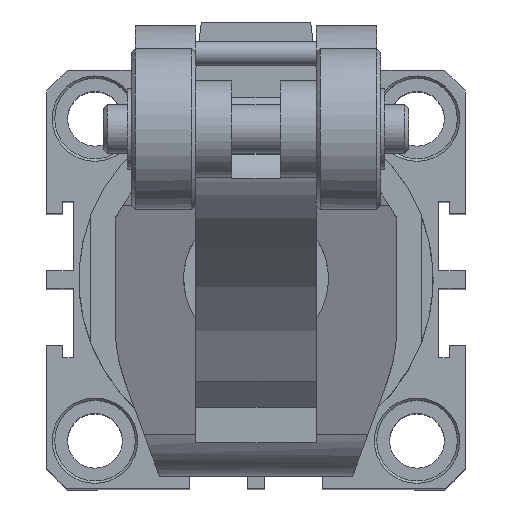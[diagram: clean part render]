
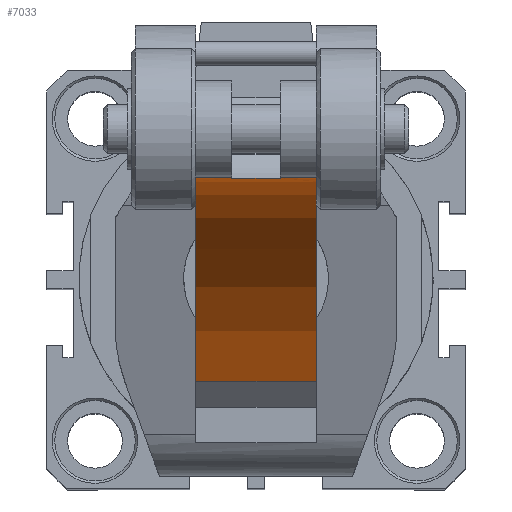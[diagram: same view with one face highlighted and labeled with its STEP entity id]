
A CAD part, top view. The second image highlights one B-rep face of the part: STEP entity #7033.
In plain terms, the highlighted cylindrical face has radius 45 mm (diameter 90 mm), a partial arc.
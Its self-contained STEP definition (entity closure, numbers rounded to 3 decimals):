
#1196=CARTESIAN_POINT('',(8.598,13.512,182.638));
#1197=VERTEX_POINT('',#1196);
#1205=CARTESIAN_POINT('',(8.098,13.512,182.638));
#1206=VERTEX_POINT('',#1205);
#1207=CARTESIAN_POINT('',(8.098,13.512,182.638));
#1208=DIRECTION('',(1.0,0.0,0.0));
#1209=VECTOR('',#1208,0.5);
#1210=LINE('',#1207,#1209);
#1211=EDGE_CURVE('',#1206,#1197,#1210,.T.);
#1266=CARTESIAN_POINT('',(8.098,13.601,183.229));
#1267=VERTEX_POINT('',#1266);
#1275=CARTESIAN_POINT('',(8.098,13.601,183.229));
#1276=CARTESIAN_POINT('',(8.262,13.572,183.032));
#1277=CARTESIAN_POINT('',(8.429,13.543,182.835));
#1278=CARTESIAN_POINT('',(8.598,13.512,182.638));
#1279=B_SPLINE_CURVE_WITH_KNOTS('',3,(#1275,#1276,#1277,#1278),.UNSPECIFIED.,.F.,.U.,(4,4),(3.429,3.512),.UNSPECIFIED.);
#1280=EDGE_CURVE('',#1197,#1267,#1279,.F.);
#1308=CARTESIAN_POINT('',(-7.402,13.512,182.638));
#1309=VERTEX_POINT('',#1308);
#1317=CARTESIAN_POINT('',(-6.902,13.601,183.229));
#1318=VERTEX_POINT('',#1317);
#1319=CARTESIAN_POINT('',(-7.402,13.512,182.638));
#1320=CARTESIAN_POINT('',(-7.233,13.543,182.835));
#1321=CARTESIAN_POINT('',(-7.066,13.572,183.032));
#1322=CARTESIAN_POINT('',(-6.902,13.601,183.229));
#1323=B_SPLINE_CURVE_WITH_KNOTS('',3,(#1319,#1320,#1321,#1322),.UNSPECIFIED.,.F.,.U.,(4,4),(1.581,1.664),.UNSPECIFIED.);
#1324=EDGE_CURVE('',#1309,#1318,#1323,.T.);
#1342=CARTESIAN_POINT('',(-6.902,14.055,190.133));
#1343=VERTEX_POINT('',#1342);
#1344=CARTESIAN_POINT('',(-6.902,-30.942,189.629));
#1345=DIRECTION('',(-1.0,0.,0.));
#1346=DIRECTION('',(0.,0.439,-0.898));
#1347=AXIS2_PLACEMENT_3D('',#1344,#1345,#1346);
#1348=CIRCLE('',#1347,45.0);
#1349=EDGE_CURVE('',#1343,#1318,#1348,.T.);
#1430=CARTESIAN_POINT('',(-6.902,13.512,182.638));
#1431=VERTEX_POINT('',#1430);
#1439=CARTESIAN_POINT('',(-7.402,13.512,182.638));
#1440=DIRECTION('',(1.0,0.0,0.0));
#1441=VECTOR('',#1440,0.5);
#1442=LINE('',#1439,#1441);
#1443=EDGE_CURVE('',#1309,#1431,#1442,.T.);
#1854=CARTESIAN_POINT('',(-2.402,13.966,186.747));
#1855=VERTEX_POINT('',#1854);
#1924=CARTESIAN_POINT('',(-2.402,14.055,190.133));
#1925=VERTEX_POINT('',#1924);
#1933=CARTESIAN_POINT('',(-2.402,-30.942,189.629));
#1934=DIRECTION('',(1.0,0.,0.));
#1935=DIRECTION('',(0.,0.439,-0.898));
#1936=AXIS2_PLACEMENT_3D('',#1933,#1934,#1935);
#1937=CIRCLE('',#1936,45.0);
#1938=EDGE_CURVE('',#1855,#1925,#1937,.T.);
#1961=CARTESIAN_POINT('',(3.598,14.055,190.133));
#1962=VERTEX_POINT('',#1961);
#2029=CARTESIAN_POINT('',(3.598,13.966,186.747));
#2030=VERTEX_POINT('',#2029);
#2038=CARTESIAN_POINT('',(3.598,-30.942,189.629));
#2039=DIRECTION('',(-1.0,0.,0.));
#2040=DIRECTION('',(0.,0.439,-0.898));
#2041=AXIS2_PLACEMENT_3D('',#2038,#2039,#2040);
#2042=CIRCLE('',#2041,45.0);
#2043=EDGE_CURVE('',#1962,#2030,#2042,.T.);
#6964=CARTESIAN_POINT('',(-2.402,14.055,190.133));
#6965=DIRECTION('',(-1.0,0.0,0.0));
#6966=VECTOR('',#6965,4.5);
#6967=LINE('',#6964,#6966);
#6968=EDGE_CURVE('',#1925,#1343,#6967,.T.);
#6973=CARTESIAN_POINT('',(0.598,-30.942,189.629));
#6974=DIRECTION('',(1.0,0.,0.0));
#6975=DIRECTION('',(0.,0.439,-0.898));
#6976=AXIS2_PLACEMENT_3D('',#6973,#6974,#6975);
#6977=CYLINDRICAL_SURFACE('',#6976,45.0);
#6978=ORIENTED_EDGE('',*,*,#1938,.T.);
#6979=ORIENTED_EDGE('',*,*,#6968,.T.);
#6980=ORIENTED_EDGE('',*,*,#1349,.T.);
#6981=ORIENTED_EDGE('',*,*,#1324,.F.);
#6982=ORIENTED_EDGE('',*,*,#1443,.T.);
#6983=CARTESIAN_POINT('',(-6.902,-11.181,149.2));
#6984=VERTEX_POINT('',#6983);
#6985=CARTESIAN_POINT('',(-6.902,-30.942,189.629));
#6986=DIRECTION('',(-1.0,0.,0.));
#6987=DIRECTION('',(0.,0.439,-0.898));
#6988=AXIS2_PLACEMENT_3D('',#6985,#6986,#6987);
#6989=CIRCLE('',#6988,45.0);
#6990=EDGE_CURVE('',#1431,#6984,#6989,.T.);
#6991=ORIENTED_EDGE('',*,*,#6990,.T.);
#6992=CARTESIAN_POINT('',(8.098,-11.181,149.2));
#6993=VERTEX_POINT('',#6992);
#6994=CARTESIAN_POINT('',(8.098,-11.181,149.2));
#6995=DIRECTION('',(-1.0,0.0,0.0));
#6996=VECTOR('',#6995,15.0);
#6997=LINE('',#6994,#6996);
#6998=EDGE_CURVE('',#6993,#6984,#6997,.T.);
#6999=ORIENTED_EDGE('',*,*,#6998,.F.);
#7000=CARTESIAN_POINT('',(8.098,-30.942,189.629));
#7001=DIRECTION('',(1.0,0.,0.));
#7002=DIRECTION('',(0.,0.439,-0.898));
#7003=AXIS2_PLACEMENT_3D('',#7000,#7001,#7002);
#7004=CIRCLE('',#7003,45.0);
#7005=EDGE_CURVE('',#6993,#1206,#7004,.T.);
#7006=ORIENTED_EDGE('',*,*,#7005,.T.);
#7007=ORIENTED_EDGE('',*,*,#1211,.T.);
#7008=ORIENTED_EDGE('',*,*,#1280,.T.);
#7009=CARTESIAN_POINT('',(8.098,14.055,190.133));
#7010=VERTEX_POINT('',#7009);
#7011=CARTESIAN_POINT('',(8.098,-30.942,189.629));
#7012=DIRECTION('',(1.0,0.,0.));
#7013=DIRECTION('',(0.,0.439,-0.898));
#7014=AXIS2_PLACEMENT_3D('',#7011,#7012,#7013);
#7015=CIRCLE('',#7014,45.0);
#7016=EDGE_CURVE('',#1267,#7010,#7015,.T.);
#7017=ORIENTED_EDGE('',*,*,#7016,.T.);
#7018=CARTESIAN_POINT('',(8.098,14.055,190.133));
#7019=DIRECTION('',(-1.0,0.0,0.0));
#7020=VECTOR('',#7019,4.5);
#7021=LINE('',#7018,#7020);
#7022=EDGE_CURVE('',#7010,#1962,#7021,.T.);
#7023=ORIENTED_EDGE('',*,*,#7022,.T.);
#7024=ORIENTED_EDGE('',*,*,#2043,.T.);
#7025=CARTESIAN_POINT('',(3.598,13.966,186.747));
#7026=DIRECTION('',(-1.0,0.0,0.0));
#7027=VECTOR('',#7026,6.);
#7028=LINE('',#7025,#7027);
#7029=EDGE_CURVE('',#2030,#1855,#7028,.T.);
#7030=ORIENTED_EDGE('',*,*,#7029,.T.);
#7031=EDGE_LOOP('',(#6978,#6979,#6980,#6981,#6982,#6991,#6999,#7006,#7007,#7008,#7017,#7023,#7024,#7030));
#7032=FACE_OUTER_BOUND('',#7031,.T.);
#7033=ADVANCED_FACE('',(#7032),#6977,.F.);
